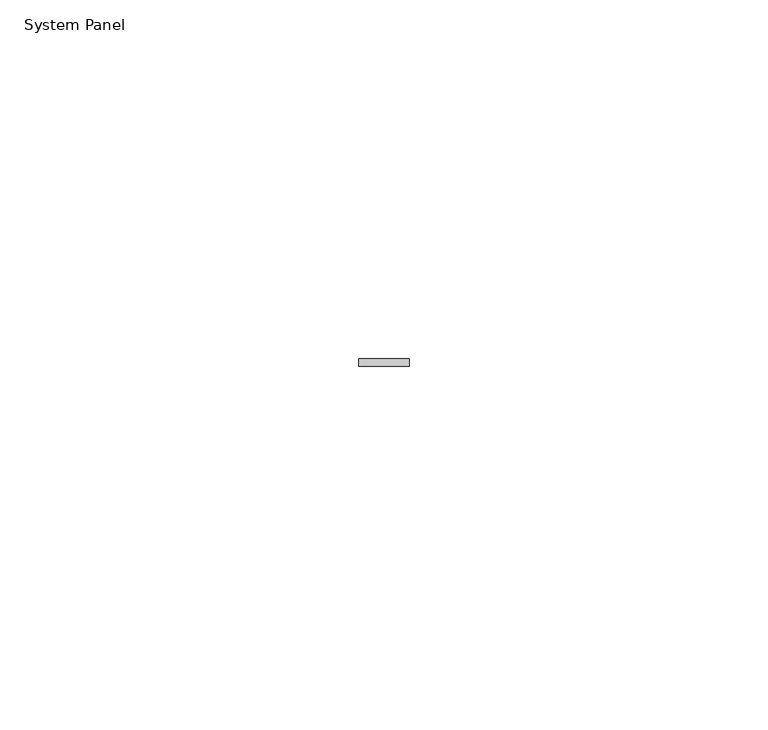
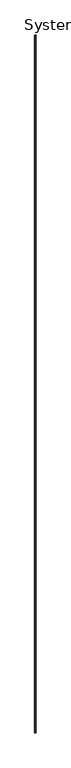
"""IFC4 building model written with IfcOpenShell, lengths in millimetres: plate geometry, System Panel : Stratco_Hiland_Interlock_Panel."""

from ifc_helpers import new_model, si_unit, origin, origin_with_axes, place, context, project, spatial, polyline, outline, extrude, source, transform, mapped, element, save


def system_panel_185952fe(model_context):
    return source(origin(), model_context, "Body", "SweptSolid", [
        extrude(outline(polyline([(3.4999998, 24.0), (-3.4999998, 24.0), (-3.4999998, 25.0), (3.4999998, 25.0), (3.4999998, 24.0)])), origin_with_axes(), (0.0, 0.0, 1.0), 4000.0),
    ])


if __name__ == "__main__":
    model = new_model("IFC4")
    model_context = context("Model", 3, world=origin())
    ifc_project = project(units=[si_unit("LENGTHUNIT", "METRE", prefix="MILLI")], contexts=[model_context])
    site = spatial("IfcSite", under=ifc_project)
    building = spatial("IfcBuilding", under=site)
    placement = place(None, origin())
    system_panel_shape = system_panel_185952fe(model_context)
    element("IfcPlate", 1, ObjectType="System Panel : Stratco_Hiland_Interlock_Panel", at=placement, inside=building, context=model_context, shape_type="MappedRepresentation", body=[
        mapped(system_panel_shape, transform((0.0, 0.0, 0.0), x_axis=(1.0, 0.0, 0.0), y_axis=(0.0, 1.0, 0.0), z_axis=(0.0, 0.0, 1.0))),
    ])
    save(model, "model.ifc")
